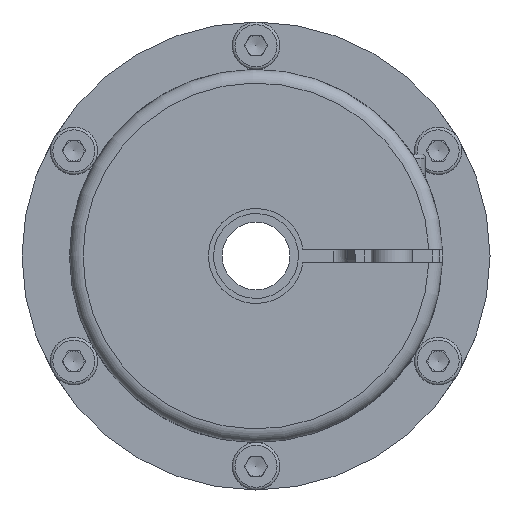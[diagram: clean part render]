
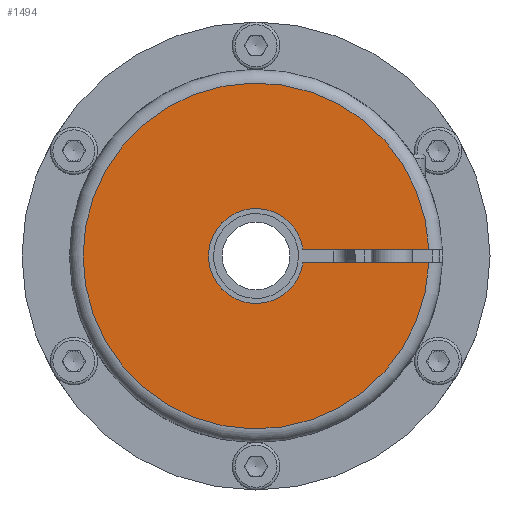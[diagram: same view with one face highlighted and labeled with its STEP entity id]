
A CAD part, left-side view. The second image highlights one B-rep face of the part: STEP entity #1494.
In plain terms, the highlighted planar face has unit normal (-1, 0, 0).
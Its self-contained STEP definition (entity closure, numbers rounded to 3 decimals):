
#1494 = ADVANCED_FACE( '', ( #3391 ), #3392, .T. );
#3391 = FACE_OUTER_BOUND( '', #5703, .T. );
#3392 = PLANE( '', #5704 );
#5703 = EDGE_LOOP( '', ( #10348, #10349, #10350, #10351 ) );
#5704 = AXIS2_PLACEMENT_3D( '', #10352, #10353, #10354 );
#10348 = ORIENTED_EDGE( '', *, *, #13960, .F. );
#10349 = ORIENTED_EDGE( '', *, *, #14612, .F. );
#10350 = ORIENTED_EDGE( '', *, *, #14745, .F. );
#10351 = ORIENTED_EDGE( '', *, *, #13189, .T. );
#10352 = CARTESIAN_POINT( '', ( -50.5, 0., 6. ) );
#10353 = DIRECTION( '', ( -1., 0., 0. ) );
#10354 = DIRECTION( '', ( 0., 0., 1. ) );
#13189 = EDGE_CURVE( '', #15678, #15682, #15684, .T. );
#13960 = EDGE_CURVE( '', #16974, #15682, #16976, .T. );
#14612 = EDGE_CURVE( '', #17922, #16974, #17923, .T. );
#14745 = EDGE_CURVE( '', #15678, #17922, #18092, .T. );
#15678 = VERTEX_POINT( '', #19539 );
#15682 = VERTEX_POINT( '', #19556 );
#15684 = CIRCLE( '', #19571, 25.5 );
#16974 = VERTEX_POINT( '', #22437 );
#16976 = LINE( '', #22440, #22441 );
#17922 = VERTEX_POINT( '', #24204 );
#17923 = CIRCLE( '', #24205, 7. );
#18092 = LINE( '', #24604, #24605 );
#19539 = CARTESIAN_POINT( '', ( -50.5, -25.48, 1. ) );
#19556 = CARTESIAN_POINT( '', ( -50.5, -25.48, -1. ) );
#19571 = AXIS2_PLACEMENT_3D( '', #26054, #26055, #26056 );
#22437 = CARTESIAN_POINT( '', ( -50.5, -6.928, -1. ) );
#22440 = CARTESIAN_POINT( '', ( -50.5, 11., -1. ) );
#22441 = VECTOR( '', #26948, 1000. );
#24204 = CARTESIAN_POINT( '', ( -50.5, -6.928, 1. ) );
#24205 = AXIS2_PLACEMENT_3D( '', #27706, #27707, #27708 );
#24604 = CARTESIAN_POINT( '', ( -50.5, -29., 1. ) );
#24605 = VECTOR( '', #27824, 1000. );
#26054 = CARTESIAN_POINT( '', ( -50.5, 0., 0. ) );
#26055 = DIRECTION( '', ( -1., 0., 0. ) );
#26056 = DIRECTION( '', ( 0., 0., 1. ) );
#26948 = DIRECTION( '', ( 0., -1., 0. ) );
#27706 = CARTESIAN_POINT( '', ( -50.5, 0., 0. ) );
#27707 = DIRECTION( '', ( -1., 0., 0. ) );
#27708 = DIRECTION( '', ( 0., -1., 0. ) );
#27824 = DIRECTION( '', ( 0., 1., 0. ) );
